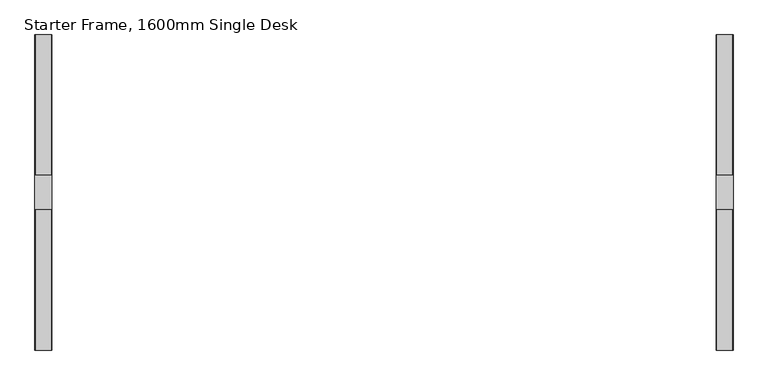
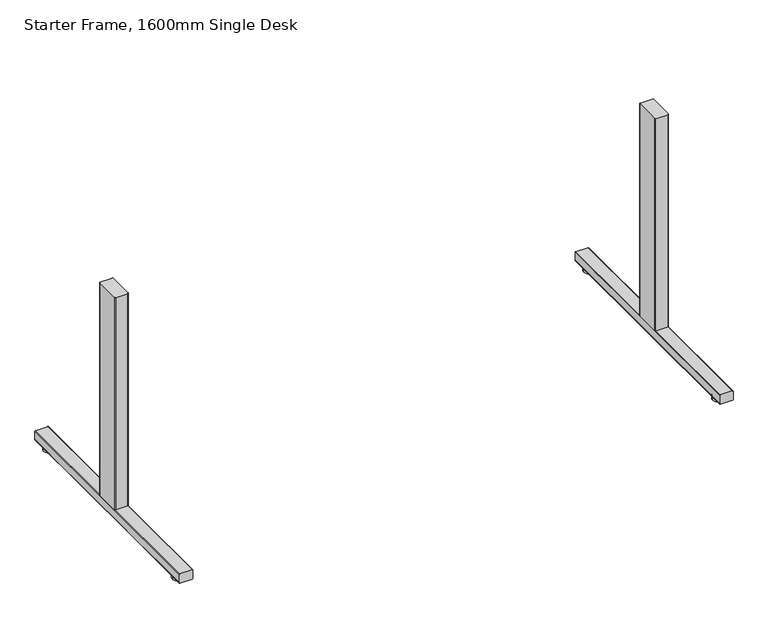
"""IFC4 building model written with IfcOpenShell, lengths in millimetres: furniture geometry, DBLTD_TheSenatorGroup_OffcDsks_Workbase_Single_StarterFrame : Starter Frame, 1600mm Single Desk."""

from ifc_helpers import new_model, si_unit, point, frame, frame_2d, origin, origin_with_axes, place, context, project, spatial, polyline, circle_curve, trimmed, segment, composite_curve, outline, extrude, source, transform, mapped, element, save


def starter_frame_1600mm_single_desk_b2a4bc26(model_context):
    return source(origin(), model_context, "Body", "SweptSolid", [
        extrude(outline(composite_curve([segment(trimmed(circle_curve(frame_2d((877.4999619, 1155.0399498)), 18.0), [point((859.4999619, 1155.0399498))], [point((895.4999619, 1155.0399498))], False, "CARTESIAN"), True, "CONTINUOUS"), segment(trimmed(circle_curve(frame_2d((877.4999619, 1155.0399498)), 18.0), [point((895.4999619, 1155.0399498))], [point((859.4999619, 1155.0399498))], False, "CARTESIAN"), True, "CONTINUOUS")], self_intersect=False)), origin_with_axes(), (0.0, 0.0, 1.0), 10.4220208),
        extrude(outline(composite_curve([segment(trimmed(circle_curve(frame_2d((877.4999619, 495.1603981)), 18.0), [point((859.4999619, 495.1603981))], [point((895.4999619, 495.1603981))], False, "CARTESIAN"), True, "CONTINUOUS"), segment(trimmed(circle_curve(frame_2d((877.4999619, 495.1603981)), 18.0), [point((895.4999619, 495.1603981))], [point((859.4999619, 495.1603981))], False, "CARTESIAN"), True, "CONTINUOUS")], self_intersect=False)), origin_with_axes(), (0.0, 0.0, 1.0), 10.4220208),
        extrude(outline(composite_curve([segment(trimmed(circle_curve(frame_2d((37.9999905, 859.4999237)), 2.0), [point((39.9999905, 859.4999237))], [point((37.9999905, 857.4999237))], False, "CARTESIAN"), True, "CONTINUOUS"), segment(polyline([(37.9999905, 857.4999237), (13.0000074, 857.4999237)]), True, "CONTINUOUS"), segment(trimmed(circle_curve(frame_2d((13.0000074, 859.4999237)), 2.0), [point((13.0000074, 857.4999237))], [point((11.0000074, 859.4999237))], False, "CARTESIAN"), True, "CONTINUOUS"), segment(polyline([(11.0000074, 859.4999237), (11.0000074, 895.5)]), True, "CONTINUOUS"), segment(trimmed(circle_curve(frame_2d((13.0000074, 895.5)), 2.0), [point((11.0000074, 895.5))], [point((13.0000074, 897.5))], False, "CARTESIAN"), True, "CONTINUOUS"), segment(polyline([(13.0000074, 897.5), (37.9999905, 897.5)]), True, "CONTINUOUS"), segment(trimmed(circle_curve(frame_2d((37.9999905, 895.5)), 2.0), [point((37.9999905, 897.5))], [point((39.9999905, 895.5))], False, "CARTESIAN"), True, "CONTINUOUS"), segment(polyline([(39.9999905, 895.5), (39.9999905, 859.4999237)]), True, "CONTINUOUS")], self_intersect=False)), frame((0.0, 455.0639343, 0.0), z_axis=(0.0, 1.0, 0.0), x_axis=(0.0, 0.0, 1.0)), (0.0, 0.0, 1.0), 740.0724792),
        extrude(outline(composite_curve([segment(polyline([(897.5, 863.1001596), (897.5, 787.1001596)]), True, "CONTINUOUS"), segment(trimmed(circle_curve(frame_2d((895.5, 787.1001596)), 2.0), [point((897.5, 787.1001596))], [point((895.5, 785.1001596))], False, "CARTESIAN"), True, "CONTINUOUS"), segment(polyline([(895.5, 785.1001596), (859.5233383, 785.1001596)]), True, "CONTINUOUS"), segment(trimmed(circle_curve(frame_2d((859.5233383, 787.1001596)), 2.0), [point((859.5233383, 785.1001596))], [point((857.5233383, 787.1001596))], False, "CARTESIAN"), True, "CONTINUOUS"), segment(polyline([(857.5233383, 787.1001596), (857.5233383, 863.1001596)]), True, "CONTINUOUS"), segment(trimmed(circle_curve(frame_2d((859.5233383, 863.1001596)), 2.0), [point((857.5233383, 863.1001596))], [point((859.5233383, 865.1001596))], False, "CARTESIAN"), True, "CONTINUOUS"), segment(polyline([(859.5233383, 865.1001596), (895.5, 865.1001596)]), True, "CONTINUOUS"), segment(trimmed(circle_curve(frame_2d((895.5, 863.1001596)), 2.0), [point((895.5, 865.1001596))], [point((897.5, 863.1001596))], False, "CARTESIAN"), True, "CONTINUOUS")], self_intersect=False)), frame((0.0, 0.0, 37.5740814), z_axis=(0.0, 0.0, 1.0), x_axis=(1.0, 0.0, 0.0)), (0.0, 0.0, 1.0), 667.4258423),
        extrude(outline(composite_curve([segment(trimmed(circle_curve(frame_2d((-722.4999619, 1155.0399498)), 18.0), [point((-704.4999619, 1155.0399498))], [point((-740.4999619, 1155.0399498))], False, "CARTESIAN"), True, "CONTINUOUS"), segment(trimmed(circle_curve(frame_2d((-722.4999619, 1155.0399498)), 18.0), [point((-740.4999619, 1155.0399498))], [point((-704.4999619, 1155.0399498))], False, "CARTESIAN"), True, "CONTINUOUS")], self_intersect=False)), origin_with_axes(), (0.0, 0.0, 1.0), 10.4220208),
        extrude(outline(composite_curve([segment(trimmed(circle_curve(frame_2d((-722.4999619, 495.1603981)), 18.0), [point((-704.4999619, 495.1603981))], [point((-740.4999619, 495.1603981))], False, "CARTESIAN"), True, "CONTINUOUS"), segment(trimmed(circle_curve(frame_2d((-722.4999619, 495.1603981)), 18.0), [point((-740.4999619, 495.1603981))], [point((-704.4999619, 495.1603981))], False, "CARTESIAN"), True, "CONTINUOUS")], self_intersect=False)), origin_with_axes(), (0.0, 0.0, 1.0), 10.4220208),
        extrude(outline(composite_curve([segment(polyline([(39.9999905, -704.4999237), (39.9999905, -740.5)]), True, "CONTINUOUS"), segment(trimmed(circle_curve(frame_2d((37.9999905, -740.5)), 2.0), [point((39.9999905, -740.5))], [point((37.9999905, -742.5))], False, "CARTESIAN"), True, "CONTINUOUS"), segment(polyline([(37.9999905, -742.5), (13.0000074, -742.5)]), True, "CONTINUOUS"), segment(trimmed(circle_curve(frame_2d((13.0000074, -740.5)), 2.0), [point((13.0000074, -742.5))], [point((11.0000074, -740.5))], False, "CARTESIAN"), True, "CONTINUOUS"), segment(polyline([(11.0000074, -740.5), (11.0000074, -704.4999237)]), True, "CONTINUOUS"), segment(trimmed(circle_curve(frame_2d((13.0000074, -704.4999237)), 2.0), [point((11.0000074, -704.4999237))], [point((13.0000074, -702.4999237))], False, "CARTESIAN"), True, "CONTINUOUS"), segment(polyline([(13.0000074, -702.4999237), (37.9999905, -702.4999237)]), True, "CONTINUOUS"), segment(trimmed(circle_curve(frame_2d((37.9999905, -704.4999237)), 2.0), [point((37.9999905, -702.4999237))], [point((39.9999905, -704.4999237))], False, "CARTESIAN"), True, "CONTINUOUS")], self_intersect=False)), frame((0.0, 455.0639343, 0.0), z_axis=(0.0, 1.0, 0.0), x_axis=(0.0, 0.0, 1.0)), (0.0, 0.0, 1.0), 740.0724792),
        extrude(outline(composite_curve([segment(trimmed(circle_curve(frame_2d((-740.5, 863.1001596)), 2.0), [point((-742.5, 863.1001596))], [point((-740.5, 865.1001596))], False, "CARTESIAN"), True, "CONTINUOUS"), segment(polyline([(-740.5, 865.1001596), (-704.5233383, 865.1001596)]), True, "CONTINUOUS"), segment(trimmed(circle_curve(frame_2d((-704.5233383, 863.1001596)), 2.0), [point((-704.5233383, 865.1001596))], [point((-702.5233383, 863.1001596))], False, "CARTESIAN"), True, "CONTINUOUS"), segment(polyline([(-702.5233383, 863.1001596), (-702.5233383, 787.1001596)]), True, "CONTINUOUS"), segment(trimmed(circle_curve(frame_2d((-704.5233383, 787.1001596)), 2.0), [point((-702.5233383, 787.1001596))], [point((-704.5233383, 785.1001596))], False, "CARTESIAN"), True, "CONTINUOUS"), segment(polyline([(-704.5233383, 785.1001596), (-740.5, 785.1001596)]), True, "CONTINUOUS"), segment(trimmed(circle_curve(frame_2d((-740.5, 787.1001596)), 2.0), [point((-740.5, 785.1001596))], [point((-742.5, 787.1001596))], False, "CARTESIAN"), True, "CONTINUOUS"), segment(polyline([(-742.5, 787.1001596), (-742.5, 863.1001596)]), True, "CONTINUOUS")], self_intersect=False)), frame((0.0, 0.0, 37.5740814), z_axis=(0.0, 0.0, 1.0), x_axis=(1.0, 0.0, 0.0)), (0.0, 0.0, 1.0), 667.4258423),
    ])


if __name__ == "__main__":
    model = new_model("IFC4")
    model_context = context("Model", 3, world=origin())
    ifc_project = project(units=[si_unit("LENGTHUNIT", "METRE", prefix="MILLI")], contexts=[model_context])
    site = spatial("IfcSite", under=ifc_project)
    building = spatial("IfcBuilding", under=site)
    placement = place(None, origin())
    starter_frame_1600mm_single_desk_shape = starter_frame_1600mm_single_desk_b2a4bc26(model_context)
    element("IfcFurniture", 1, ObjectType="DBLTD_TheSenatorGroup_OffcDsks_Workbase_Single_StarterFrame : Starter Frame, 1600mm Single Desk", at=placement, inside=building, context=model_context, shape_type="MappedRepresentation", body=[
        mapped(starter_frame_1600mm_single_desk_shape, transform((0.0, 0.0, 0.0), x_axis=(1.0, 0.0, 0.0), y_axis=(0.0, 1.0, 0.0), z_axis=(0.0, 0.0, 1.0))),
    ])
    save(model, "model.ifc")
